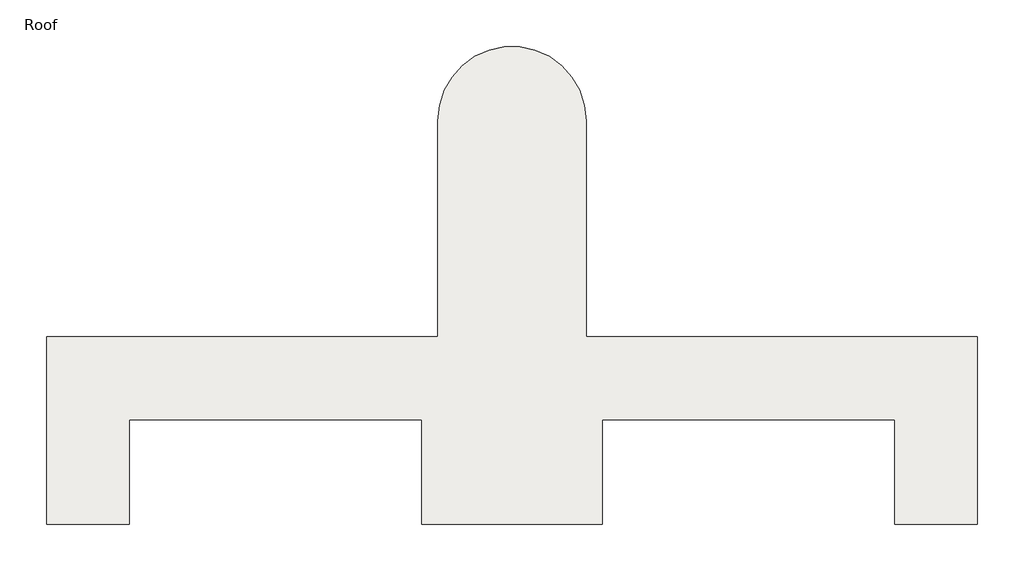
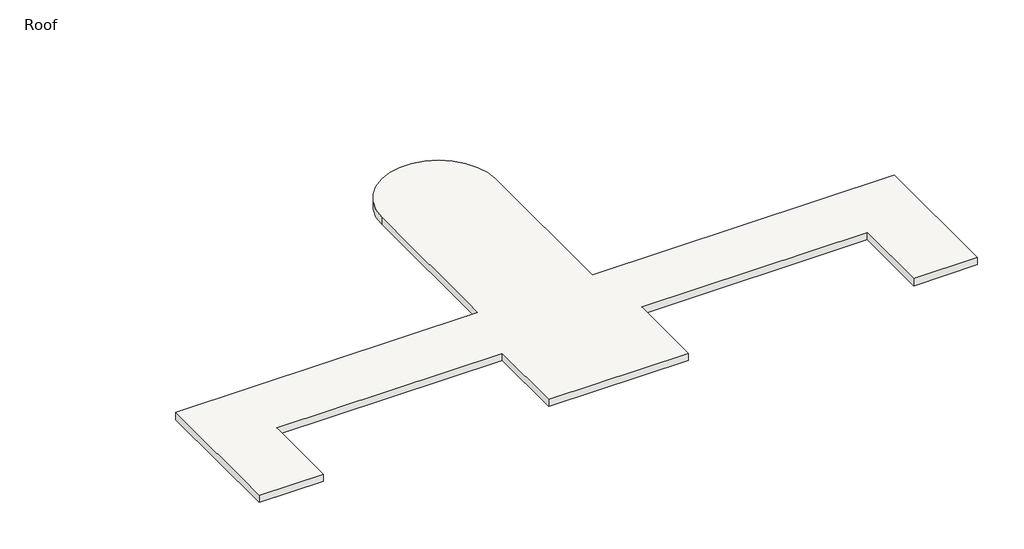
# One storey: 1 roof.
"""IFC4 building model written with IfcOpenShell, lengths in millimetres."""

from ifc_helpers import new_model, si_unit, point, frame, frame_2d, origin, place, context, project, spatial, polyline, circle_curve, trimmed, segment, composite_curve, outline, extrude, element, save

model = new_model("IFC4")

# Units and contexts
model_context = context("Model", 3, world=origin())
ifc_project = project(units=[si_unit("LENGTHUNIT", "METRE", prefix="MILLI")], contexts=[model_context])

# Site, building, storey
site = spatial("IfcSite", under=ifc_project)
building = spatial("IfcBuilding", under=site)
storey = spatial("IfcBuildingStorey", under=building, Name="Roof", Elevation=12192.0)

# Roof
placement = place(None, origin())
element("IfcRoof", 1, ObjectType="Generic - 9\"", at=placement, inside=storey, context=model_context, shape_type="SweptSolid", body=[
    extrude(outline(composite_curve([segment(polyline([(-7974.4024687, 4539.7633812), (-7974.4024687, 9592.7758812)]), True, "CONTINUOUS"), segment(trimmed(circle_curve(frame_2d((-6245.6149687, 9592.7758812)), 1728.7875), [point((-7974.4024687, 9592.7758812))], [point((-4516.8274687, 9592.7758812))], False, "CARTESIAN"), True, "CONTINUOUS"), segment(polyline([(-4516.8274687, 9592.7758812), (-4516.8274687, 4539.7633812), (4627.1725313, 4539.7633812), (4627.1725313, 167.7883812), (2693.5975313, 167.7883812), (2693.5975313, 2606.1883812), (-4135.8274687, 2606.1883812), (-4135.8274687, 167.7883812), (-8355.4024687, 167.7883812), (-8355.4024687, 2606.1883812), (-15184.8274687, 2606.1883812), (-15184.8274687, 167.7883812), (-17118.4024687, 167.7883812), (-17118.4024687, 4539.7633812), (-7974.4024687, 4539.7633812)]), True, "CONTINUOUS")], self_intersect=False)), frame((0.0, 0.0, 12192.0), z_axis=(0.0, 0.0, 1.0), x_axis=(1.0, 0.0, 0.0)), (0.0, 0.0, 1.0), 228.6),
])

save(model, "model.ifc")
